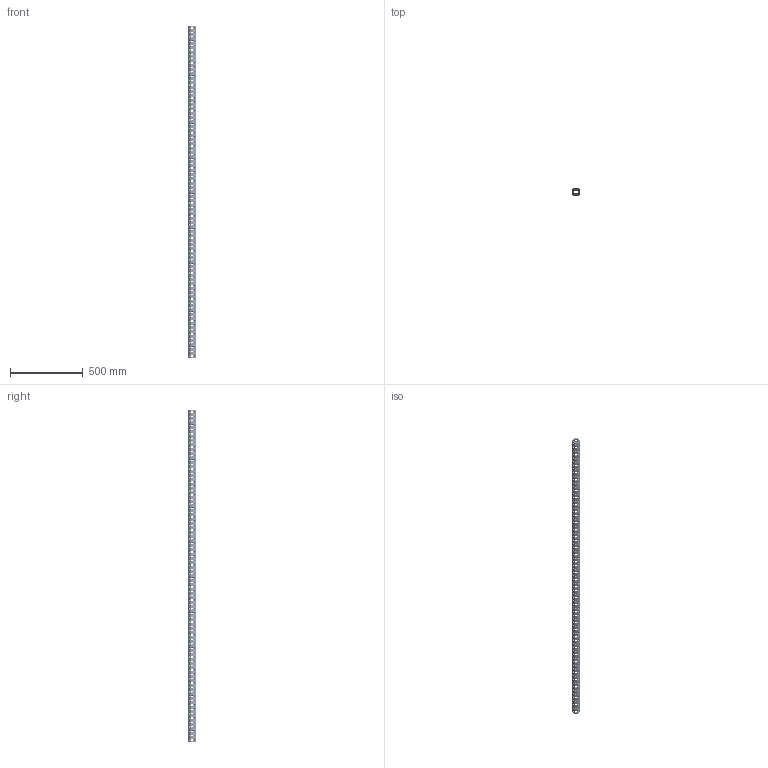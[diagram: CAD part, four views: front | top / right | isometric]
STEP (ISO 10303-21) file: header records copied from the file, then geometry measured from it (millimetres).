
FILE_DESCRIPTION(('CATIA V5 STEP Exchange'),'2;1');
FILE_NAME('U:\Room\唐宝山\EGT002\46-01-010305-01-EGT002-2278.stp','2021-08-24T02:00:00+00:00',('none'),('none'),'CATIA Version 5 Release 21 GA (IN-10)','CATIA V5 STEP AP203','none');
FILE_SCHEMA(('CONFIG_CONTROL_DESIGN'));
Products named in the file (1): 46-01-010305-01-EGT002-2278
Bounding box: 50 x 50 x 2278 mm (x, y, z)
Volume: 1623096.5 mm3; surface area: 782264.3 mm2
Topology: 1 solids, 1 shells, 3124 faces, 8606 edges, 5332 vertices
Faces by surface type: cone 1824, cylinder 1274, plane 26
Entity records: 127576 total; most frequent: CARTESIAN_POINT 51901, ORIENTED_EDGE 17212, DIRECTION 12183, EDGE_CURVE 8606, AXIS2_PLACEMENT_3D 5738, VERTEX_POINT 5332, EDGE_LOOP 4190, VECTOR 3322
